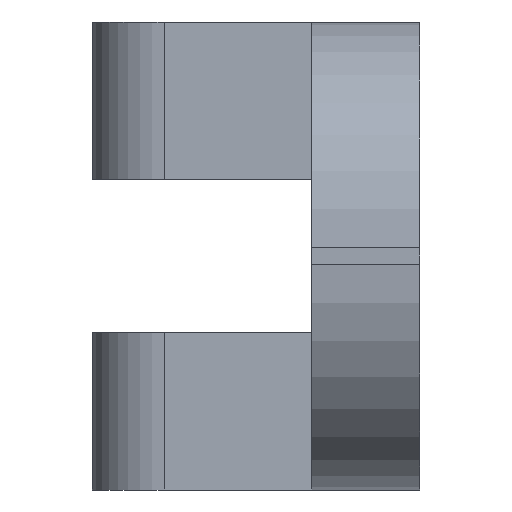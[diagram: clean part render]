
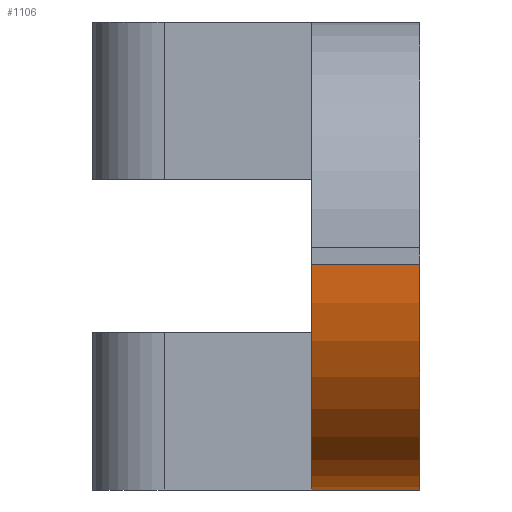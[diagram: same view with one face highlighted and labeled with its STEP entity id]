
A CAD part, left-side view. The second image highlights one B-rep face of the part: STEP entity #1106.
In plain terms, the highlighted cylindrical face has radius 6.35 mm (diameter 12.7 mm), a partial arc.
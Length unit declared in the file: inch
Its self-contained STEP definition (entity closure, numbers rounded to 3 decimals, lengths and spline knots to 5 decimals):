
#7 = VECTOR ( 'NONE', #966, 39.37008 ) ;
#21 = LINE ( 'NONE', #402, #7 ) ;
#27 = VERTEX_POINT ( 'NONE', #480 ) ;
#37 = EDGE_CURVE ( 'NONE', #1220, #199, #1016, .T. ) ;
#133 = DIRECTION ( 'NONE',  ( 1., 0., 0. ) ) ;
#166 = CARTESIAN_POINT ( 'NONE',  ( -0.827, 0.12, -0.009 ) ) ;
#175 = DIRECTION ( 'NONE',  ( 0., -1., 0. ) ) ;
#199 = VERTEX_POINT ( 'NONE', #443 ) ;
#278 = ORIENTED_EDGE ( 'NONE', *, *, #434, .F. ) ;
#330 = CARTESIAN_POINT ( 'NONE',  ( -0.577, 0.12, -0.009 ) ) ;
#337 = VECTOR ( 'NONE', #1104, 39.37008 ) ;
#339 = CARTESIAN_POINT ( 'NONE',  ( -0.577, 0., -0.009 ) ) ;
#378 = VERTEX_POINT ( 'NONE', #956 ) ;
#402 = CARTESIAN_POINT ( 'NONE',  ( -0.577, 0., -0.259 ) ) ;
#433 = AXIS2_PLACEMENT_3D ( 'NONE', #923, #175, #553 ) ;
#434 = EDGE_CURVE ( 'NONE', #378, #1220, #21, .T. ) ;
#443 = CARTESIAN_POINT ( 'NONE',  ( -0.827, 0.12, -0.009 ) ) ;
#474 = CARTESIAN_POINT ( 'NONE',  ( -0.577, 0.12, -0.259 ) ) ;
#480 = CARTESIAN_POINT ( 'NONE',  ( -0.827, 0., -0.009 ) ) ;
#527 = CIRCLE ( 'NONE', #686, 0.25 ) ;
#553 = DIRECTION ( 'NONE',  ( 0., 0., -1. ) ) ;
#595 = DIRECTION ( 'NONE',  ( -1., 0., 0. ) ) ;
#636 = LINE ( 'NONE', #166, #337 ) ;
#686 = AXIS2_PLACEMENT_3D ( 'NONE', #339, #792, #595 ) ;
#704 = AXIS2_PLACEMENT_3D ( 'NONE', #330, #865, #133 ) ;
#713 = EDGE_CURVE ( 'NONE', #27, #378, #527, .T. ) ;
#792 = DIRECTION ( 'NONE',  ( 0., -1., 0. ) ) ;
#818 = FACE_OUTER_BOUND ( 'NONE', #1217, .T. ) ;
#823 = CYLINDRICAL_SURFACE ( 'NONE', #433, 0.25 ) ;
#865 = DIRECTION ( 'NONE',  ( 0., 1., 0. ) ) ;
#923 = CARTESIAN_POINT ( 'NONE',  ( -0.577, 0.12, -0.009 ) ) ;
#956 = CARTESIAN_POINT ( 'NONE',  ( -0.577, 0., -0.259 ) ) ;
#957 = ORIENTED_EDGE ( 'NONE', *, *, #1122, .F. ) ;
#966 = DIRECTION ( 'NONE',  ( 0., 1., 0. ) ) ;
#1016 = CIRCLE ( 'NONE', #704, 0.25 ) ;
#1104 = DIRECTION ( 'NONE',  ( 0., -1., 0. ) ) ;
#1106 = ADVANCED_FACE ( 'NONE', ( #818 ), #823, .T. ) ;
#1118 = ORIENTED_EDGE ( 'NONE', *, *, #713, .F. ) ;
#1122 = EDGE_CURVE ( 'NONE', #199, #27, #636, .T. ) ;
#1210 = ORIENTED_EDGE ( 'NONE', *, *, #37, .F. ) ;
#1217 = EDGE_LOOP ( 'NONE', ( #1210, #278, #1118, #957 ) ) ;
#1220 = VERTEX_POINT ( 'NONE', #474 ) ;
